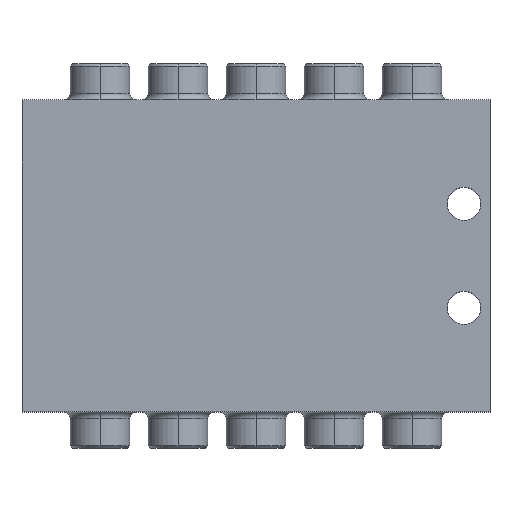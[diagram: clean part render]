
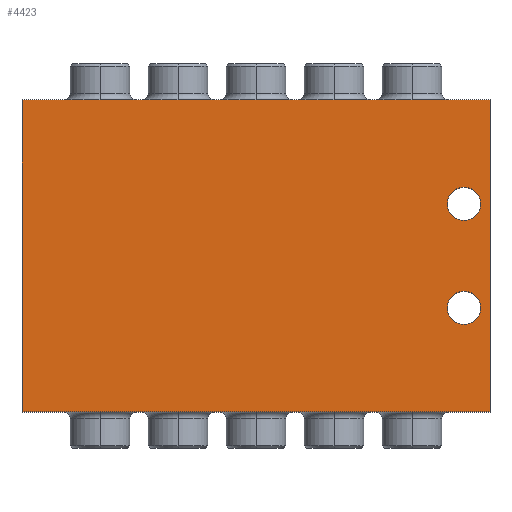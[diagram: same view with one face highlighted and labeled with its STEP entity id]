
A CAD part, top view. The second image highlights one B-rep face of the part: STEP entity #4423.
In plain terms, the highlighted planar face has unit normal (0, 0, 1).
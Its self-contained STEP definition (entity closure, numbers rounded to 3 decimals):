
#34 = AXIS2_PLACEMENT_3D ( 'NONE', #1077, #1613, #2112 ) ;
#213 = CIRCLE ( 'NONE', #6472, 3.2 ) ;
#240 = VECTOR ( 'NONE', #6422, 1000. ) ;
#314 = ORIENTED_EDGE ( 'NONE', *, *, #3746, .F. ) ;
#460 = VECTOR ( 'NONE', #2044, 1000. ) ;
#645 = DIRECTION ( 'NONE',  ( 1., 0., 0. ) ) ;
#655 = EDGE_LOOP ( 'NONE', ( #3792, #4362, #3719, #787 ) ) ;
#673 = AXIS2_PLACEMENT_3D ( 'NONE', #4562, #987, #4584 ) ;
#787 = ORIENTED_EDGE ( 'NONE', *, *, #3412, .T. ) ;
#866 = DIRECTION ( 'NONE',  ( 0., 0., 1. ) ) ;
#964 = PLANE ( 'NONE',  #673 ) ;
#987 = DIRECTION ( 'NONE',  ( 0., 0., 1. ) ) ;
#1055 = ORIENTED_EDGE ( 'NONE', *, *, #6057, .F. ) ;
#1077 = CARTESIAN_POINT ( 'NONE',  ( 40., 10., 30. ) ) ;
#1253 = VERTEX_POINT ( 'NONE', #3859 ) ;
#1408 = CARTESIAN_POINT ( 'NONE',  ( -45., 30., 30. ) ) ;
#1473 = DIRECTION ( 'NONE',  ( 0., 0., 1. ) ) ;
#1604 = AXIS2_PLACEMENT_3D ( 'NONE', #3518, #1473, #3570 ) ;
#1613 = DIRECTION ( 'NONE',  ( 0., 0., 1. ) ) ;
#1656 = ORIENTED_EDGE ( 'NONE', *, *, #5604, .F. ) ;
#1711 = CARTESIAN_POINT ( 'NONE',  ( 43.2, 10., 30. ) ) ;
#2044 = DIRECTION ( 'NONE',  ( 0., 1., 0. ) ) ;
#2068 = FACE_BOUND ( 'NONE', #3252, .T. ) ;
#2082 = LINE ( 'NONE', #6451, #240 ) ;
#2112 = DIRECTION ( 'NONE',  ( 1., 0., 0. ) ) ;
#2119 = DIRECTION ( 'NONE',  ( 0., 0., 1. ) ) ;
#2137 = LINE ( 'NONE', #6187, #2558 ) ;
#2144 = LINE ( 'NONE', #5144, #460 ) ;
#2230 = CARTESIAN_POINT ( 'NONE',  ( 45., -30., 30. ) ) ;
#2249 = LINE ( 'NONE', #5423, #4509 ) ;
#2265 = VERTEX_POINT ( 'NONE', #2831 ) ;
#2476 = CARTESIAN_POINT ( 'NONE',  ( 45., 30., 30. ) ) ;
#2558 = VECTOR ( 'NONE', #3139, 1000. ) ;
#2831 = CARTESIAN_POINT ( 'NONE',  ( 36.8, 10., 30. ) ) ;
#2924 = EDGE_LOOP ( 'NONE', ( #1656, #3112 ) ) ;
#2929 = CARTESIAN_POINT ( 'NONE',  ( 40., 10., 30. ) ) ;
#3056 = CARTESIAN_POINT ( 'NONE',  ( 36.8, -10., 30. ) ) ;
#3112 = ORIENTED_EDGE ( 'NONE', *, *, #6405, .F. ) ;
#3139 = DIRECTION ( 'NONE',  ( 1., 0., 0. ) ) ;
#3252 = EDGE_LOOP ( 'NONE', ( #1055, #314 ) ) ;
#3267 = CIRCLE ( 'NONE', #3975, 3.2 ) ;
#3296 = EDGE_CURVE ( 'NONE', #3465, #4371, #2082, .T. ) ;
#3412 = EDGE_CURVE ( 'NONE', #6125, #3465, #2249, .T. ) ;
#3465 = VERTEX_POINT ( 'NONE', #1408 ) ;
#3518 = CARTESIAN_POINT ( 'NONE',  ( 40., -10., 30. ) ) ;
#3523 = CIRCLE ( 'NONE', #1604, 3.2 ) ;
#3570 = DIRECTION ( 'NONE',  ( 1., 0., 0. ) ) ;
#3719 = ORIENTED_EDGE ( 'NONE', *, *, #5249, .T. ) ;
#3740 = CARTESIAN_POINT ( 'NONE',  ( 40., -10., 30. ) ) ;
#3746 = EDGE_CURVE ( 'NONE', #2265, #4671, #5484, .T. ) ;
#3792 = ORIENTED_EDGE ( 'NONE', *, *, #3296, .T. ) ;
#3855 = FACE_OUTER_BOUND ( 'NONE', #655, .T. ) ;
#3859 = CARTESIAN_POINT ( 'NONE',  ( 43.2, -10., 30. ) ) ;
#3975 = AXIS2_PLACEMENT_3D ( 'NONE', #3740, #2119, #645 ) ;
#4362 = ORIENTED_EDGE ( 'NONE', *, *, #5719, .T. ) ;
#4371 = VERTEX_POINT ( 'NONE', #4940 ) ;
#4423 = ADVANCED_FACE ( 'NONE', ( #5949, #2068, #3855 ), #964, .T. ) ;
#4509 = VECTOR ( 'NONE', #4947, 1000. ) ;
#4562 = CARTESIAN_POINT ( 'NONE',  ( -45., -30., 30. ) ) ;
#4584 = DIRECTION ( 'NONE',  ( 1., 0., 0. ) ) ;
#4671 = VERTEX_POINT ( 'NONE', #1711 ) ;
#4940 = CARTESIAN_POINT ( 'NONE',  ( -45., -30., 30. ) ) ;
#4947 = DIRECTION ( 'NONE',  ( -1., 0., 0. ) ) ;
#5037 = DIRECTION ( 'NONE',  ( 1., 0., 0. ) ) ;
#5125 = VERTEX_POINT ( 'NONE', #3056 ) ;
#5144 = CARTESIAN_POINT ( 'NONE',  ( 45., 30., 30. ) ) ;
#5249 = EDGE_CURVE ( 'NONE', #6602, #6125, #2144, .T. ) ;
#5423 = CARTESIAN_POINT ( 'NONE',  ( -45., 30., 30. ) ) ;
#5484 = CIRCLE ( 'NONE', #34, 3.2 ) ;
#5604 = EDGE_CURVE ( 'NONE', #1253, #5125, #3523, .T. ) ;
#5719 = EDGE_CURVE ( 'NONE', #4371, #6602, #2137, .T. ) ;
#5949 = FACE_BOUND ( 'NONE', #2924, .T. ) ;
#6057 = EDGE_CURVE ( 'NONE', #4671, #2265, #213, .T. ) ;
#6125 = VERTEX_POINT ( 'NONE', #2476 ) ;
#6187 = CARTESIAN_POINT ( 'NONE',  ( -45., -30., 30. ) ) ;
#6405 = EDGE_CURVE ( 'NONE', #5125, #1253, #3267, .T. ) ;
#6422 = DIRECTION ( 'NONE',  ( 0., -1., 0. ) ) ;
#6451 = CARTESIAN_POINT ( 'NONE',  ( -45., 30., 30. ) ) ;
#6472 = AXIS2_PLACEMENT_3D ( 'NONE', #2929, #866, #5037 ) ;
#6602 = VERTEX_POINT ( 'NONE', #2230 ) ;
